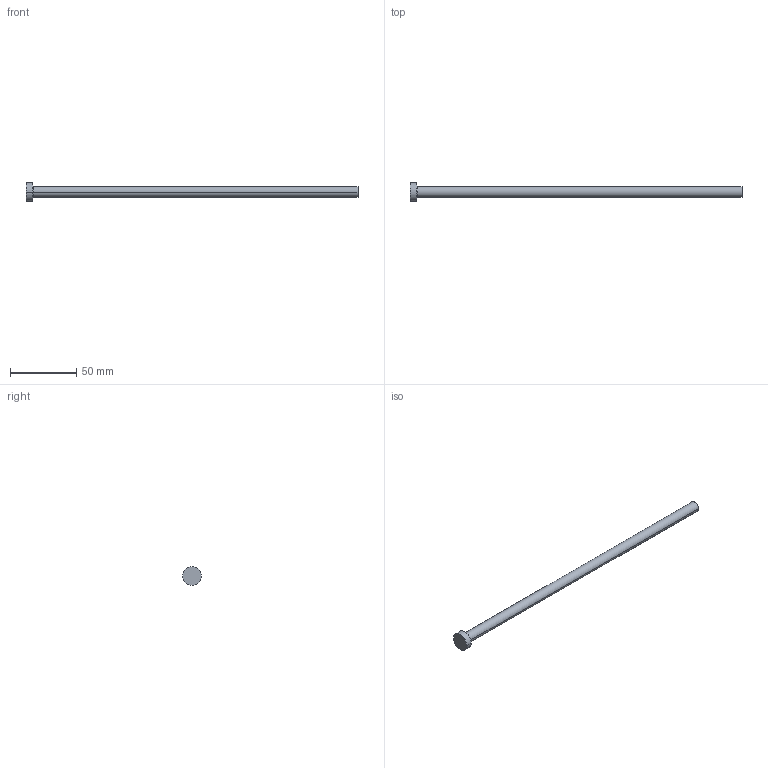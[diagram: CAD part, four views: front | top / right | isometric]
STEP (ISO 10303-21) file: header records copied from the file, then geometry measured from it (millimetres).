
FILE_DESCRIPTION (( 'STEP AP214' ), '1' );
FILE_NAME ('A-8x250.STEP', '2020-05-29T15:54:03', ( 'August' ), ( '' ), 'SwSTEP 2.0', 'SolidWorks 2018', '' );
FILE_SCHEMA (( 'AUTOMOTIVE_DESIGN' ));
Length unit declared in the file: millimetre
Products named in the file (1): A-8x250
Bounding box: 250 x 14 x 14 mm (x, y, z)
Volume: 13086.1 mm3; surface area: 6680 mm2
Topology: 1 solids, 1 shells, 9 faces, 16 edges, 10 vertices
Faces by surface type: cylinder 4, plane 3, torus 2
Entity records: 260 total; most frequent: DIRECTION 48, CARTESIAN_POINT 36, ORIENTED_EDGE 32, AXIS2_PLACEMENT_3D 22, EDGE_CURVE 16, CIRCLE 12, VERTEX_POINT 10, EDGE_LOOP 10
